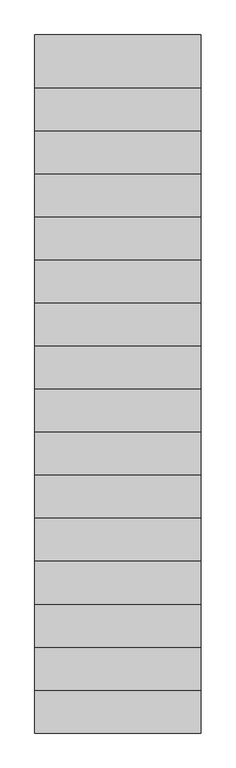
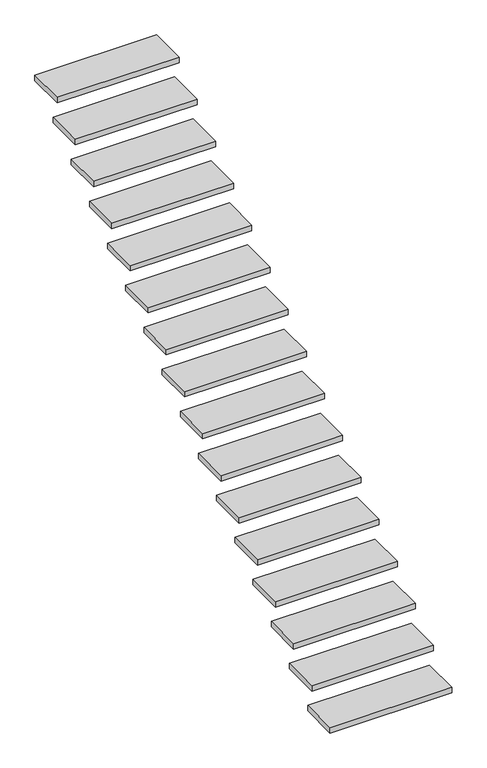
"""IFC4 building model written with IfcOpenShell, lengths in millimetres: stair flight geometry, 24_STR_trede_hout_vuren_40_neus_50."""

from ifc_helpers import new_model, si_unit, frame, origin, place, context, project, spatial, polyline, outline, extrude, source, transform, mapped, element, save


def stair_flight_0d75ee49(model_context):
    return source(origin(), model_context, "Body", "SweptSolid", [
        extrude(outline(polyline([(19349.8089026, -25054.6322236), (20199.8089026, -25054.6322236), (20199.8089026, -25324.6322236), (19349.8089026, -25324.6322236), (19349.8089026, -25054.6322236)])), frame((0.0, 0.0, 136.4705882), z_axis=(0.0, 0.0, 1.0), x_axis=(1.0, 0.0, 0.0)), (0.0, 0.0, 1.0), 40.0),
        extrude(outline(polyline([(19349.8089026, -24834.6322236), (20199.8089026, -24834.6322236), (20199.8089026, -25104.6322236), (19349.8089026, -25104.6322236), (19349.8089026, -24834.6322236)])), frame((0.0, 0.0, 312.9411765), z_axis=(0.0, 0.0, 1.0), x_axis=(1.0, 0.0, 0.0)), (0.0, 0.0, 1.0), 40.0),
        extrude(outline(polyline([(19349.8089026, -24614.6322236), (20199.8089026, -24614.6322236), (20199.8089026, -24884.6322236), (19349.8089026, -24884.6322236), (19349.8089026, -24614.6322236)])), frame((0.0, 0.0, 489.4117647), z_axis=(0.0, 0.0, 1.0), x_axis=(1.0, 0.0, 0.0)), (0.0, 0.0, 1.0), 40.0),
        extrude(outline(polyline([(19349.8089026, -24394.6322236), (20199.8089026, -24394.6322236), (20199.8089026, -24664.6322236), (19349.8089026, -24664.6322236), (19349.8089026, -24394.6322236)])), frame((0.0, 0.0, 665.8823529), z_axis=(0.0, 0.0, 1.0), x_axis=(1.0, 0.0, 0.0)), (0.0, 0.0, 1.0), 40.0),
        extrude(outline(polyline([(19349.8089026, -24174.6322236), (20199.8089026, -24174.6322236), (20199.8089026, -24444.6322236), (19349.8089026, -24444.6322236), (19349.8089026, -24174.6322236)])), frame((0.0, 0.0, 842.3529412), z_axis=(0.0, 0.0, 1.0), x_axis=(1.0, 0.0, 0.0)), (0.0, 0.0, 1.0), 40.0),
        extrude(outline(polyline([(19349.8089026, -23954.6322236), (20199.8089026, -23954.6322236), (20199.8089026, -24224.6322236), (19349.8089026, -24224.6322236), (19349.8089026, -23954.6322236)])), frame((0.0, 0.0, 1018.8235294), z_axis=(0.0, 0.0, 1.0), x_axis=(1.0, 0.0, 0.0)), (0.0, 0.0, 1.0), 40.0),
        extrude(outline(polyline([(19349.8089026, -23734.6322236), (20199.8089026, -23734.6322236), (20199.8089026, -24004.6322236), (19349.8089026, -24004.6322236), (19349.8089026, -23734.6322236)])), frame((0.0, 0.0, 1195.2941176), z_axis=(0.0, 0.0, 1.0), x_axis=(1.0, 0.0, 0.0)), (0.0, 0.0, 1.0), 40.0),
        extrude(outline(polyline([(19349.8089026, -23514.6322236), (20199.8089026, -23514.6322236), (20199.8089026, -23784.6322236), (19349.8089026, -23784.6322236), (19349.8089026, -23514.6322236)])), frame((0.0, 0.0, 1371.7647059), z_axis=(0.0, 0.0, 1.0), x_axis=(1.0, 0.0, 0.0)), (0.0, 0.0, 1.0), 40.0),
        extrude(outline(polyline([(19349.8089026, -23294.6322236), (20199.8089026, -23294.6322236), (20199.8089026, -23564.6322236), (19349.8089026, -23564.6322236), (19349.8089026, -23294.6322236)])), frame((0.0, 0.0, 1548.2352941), z_axis=(0.0, 0.0, 1.0), x_axis=(1.0, 0.0, 0.0)), (0.0, 0.0, 1.0), 40.0),
        extrude(outline(polyline([(19349.8089026, -23074.6322236), (20199.8089026, -23074.6322236), (20199.8089026, -23344.6322236), (19349.8089026, -23344.6322236), (19349.8089026, -23074.6322236)])), frame((0.0, 0.0, 1724.7058824), z_axis=(0.0, 0.0, 1.0), x_axis=(1.0, 0.0, 0.0)), (0.0, 0.0, 1.0), 40.0),
        extrude(outline(polyline([(19349.8089026, -22854.6322236), (20199.8089026, -22854.6322236), (20199.8089026, -23124.6322236), (19349.8089026, -23124.6322236), (19349.8089026, -22854.6322236)])), frame((0.0, 0.0, 1901.1764706), z_axis=(0.0, 0.0, 1.0), x_axis=(1.0, 0.0, 0.0)), (0.0, 0.0, 1.0), 40.0),
        extrude(outline(polyline([(19349.8089026, -22634.6322236), (20199.8089026, -22634.6322236), (20199.8089026, -22904.6322236), (19349.8089026, -22904.6322236), (19349.8089026, -22634.6322236)])), frame((0.0, 0.0, 2077.6470588), z_axis=(0.0, 0.0, 1.0), x_axis=(1.0, 0.0, 0.0)), (0.0, 0.0, 1.0), 40.0),
        extrude(outline(polyline([(19349.8089026, -22414.6322236), (20199.8089026, -22414.6322236), (20199.8089026, -22684.6322236), (19349.8089026, -22684.6322236), (19349.8089026, -22414.6322236)])), frame((0.0, 0.0, 2254.1176471), z_axis=(0.0, 0.0, 1.0), x_axis=(1.0, 0.0, 0.0)), (0.0, 0.0, 1.0), 40.0),
        extrude(outline(polyline([(19349.8089026, -22194.6322236), (20199.8089026, -22194.6322236), (20199.8089026, -22464.6322236), (19349.8089026, -22464.6322236), (19349.8089026, -22194.6322236)])), frame((0.0, 0.0, 2430.5882353), z_axis=(0.0, 0.0, 1.0), x_axis=(1.0, 0.0, 0.0)), (0.0, 0.0, 1.0), 40.0),
        extrude(outline(polyline([(19349.8089026, -21974.6322236), (20199.8089026, -21974.6322236), (20199.8089026, -22244.6322236), (19349.8089026, -22244.6322236), (19349.8089026, -21974.6322236)])), frame((0.0, 0.0, 2607.0588235), z_axis=(0.0, 0.0, 1.0), x_axis=(1.0, 0.0, 0.0)), (0.0, 0.0, 1.0), 40.0),
        extrude(outline(polyline([(19349.8089026, -21754.6322236), (20199.8089026, -21754.6322236), (20199.8089026, -22024.6322236), (19349.8089026, -22024.6322236), (19349.8089026, -21754.6322236)])), frame((0.0, 0.0, 2783.5294118), z_axis=(0.0, 0.0, 1.0), x_axis=(1.0, 0.0, 0.0)), (0.0, 0.0, 1.0), 40.0),
    ])


if __name__ == "__main__":
    model = new_model("IFC4")
    model_context = context("Model", 3, world=origin())
    ifc_project = project(units=[si_unit("LENGTHUNIT", "METRE", prefix="MILLI")], contexts=[model_context])
    site = spatial("IfcSite", under=ifc_project)
    building = spatial("IfcBuilding", under=site)
    placement = place(None, origin())
    stair_flight_shape = stair_flight_0d75ee49(model_context)
    element("IfcStairFlight", 1, ObjectType="24_STR_trede_hout_vuren_40_neus_50", at=placement, inside=building, context=model_context, shape_type="MappedRepresentation", body=[
        mapped(stair_flight_shape, transform((0.0, 0.0, 0.0), x_axis=(1.0, 0.0, 0.0), y_axis=(0.0, 1.0, 0.0), z_axis=(0.0, 0.0, 1.0))),
    ])
    save(model, "model.ifc")
